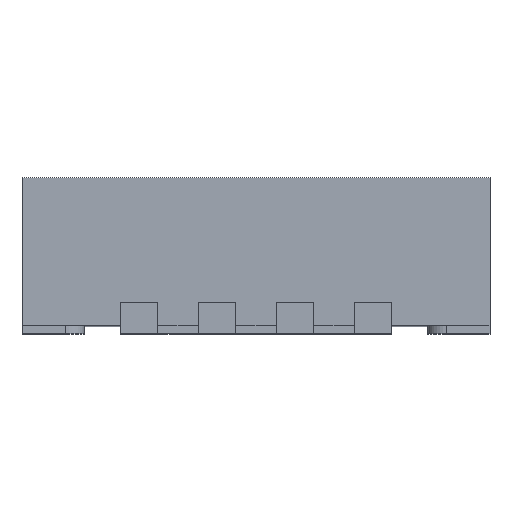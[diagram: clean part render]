
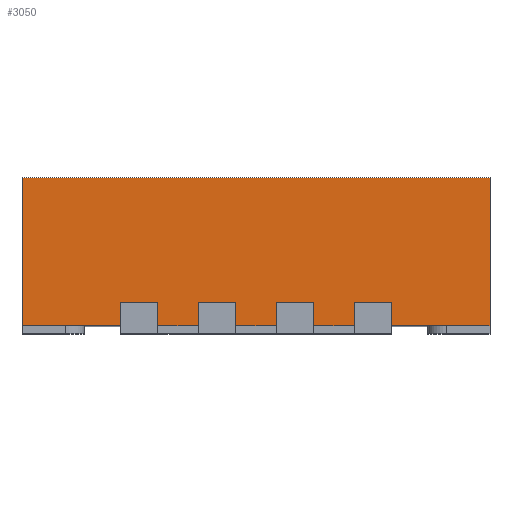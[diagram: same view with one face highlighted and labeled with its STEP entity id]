
A CAD part, top view. The second image highlights one B-rep face of the part: STEP entity #3050.
In plain terms, the highlighted planar face has unit normal (0, 0, 1).
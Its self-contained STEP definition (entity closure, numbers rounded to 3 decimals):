
#218=FACE_OUTER_BOUND('',#403,.T.);
#403=EDGE_LOOP('',(#2328,#2329,#2330,#2331,#2332,#2333,#2334,#2335,#2336,
#2337,#2338,#2339,#2340,#2341,#2342,#2343,#2344,#2345,#2346,#2347));
#633=LINE('',#4619,#997);
#661=LINE('',#4676,#1025);
#697=LINE('',#4762,#1061);
#700=LINE('',#4767,#1064);
#703=LINE('',#4772,#1067);
#706=LINE('',#4777,#1070);
#709=LINE('',#4781,#1073);
#716=LINE('',#4797,#1080);
#717=LINE('',#4799,#1081);
#718=LINE('',#4801,#1082);
#719=LINE('',#4802,#1083);
#720=LINE('',#4803,#1084);
#721=LINE('',#4805,#1085);
#722=LINE('',#4807,#1086);
#723=LINE('',#4808,#1087);
#724=LINE('',#4810,#1088);
#725=LINE('',#4812,#1089);
#726=LINE('',#4813,#1090);
#727=LINE('',#4815,#1091);
#728=LINE('',#4816,#1092);
#997=VECTOR('',#3739,1000.);
#1025=VECTOR('',#3769,1000.);
#1061=VECTOR('',#3829,1000.);
#1064=VECTOR('',#3832,1000.);
#1067=VECTOR('',#3835,1000.);
#1070=VECTOR('',#3838,1000.);
#1073=VECTOR('',#3841,1000.);
#1080=VECTOR('',#3852,1000.);
#1081=VECTOR('',#3853,1000.);
#1082=VECTOR('',#3854,1000.);
#1083=VECTOR('',#3855,1000.);
#1084=VECTOR('',#3856,1000.);
#1085=VECTOR('',#3857,1000.);
#1086=VECTOR('',#3858,1000.);
#1087=VECTOR('',#3859,1000.);
#1088=VECTOR('',#3860,1000.);
#1089=VECTOR('',#3861,1000.);
#1090=VECTOR('',#3862,1000.);
#1091=VECTOR('',#3863,1000.);
#1092=VECTOR('',#3864,1000.);
#1349=VERTEX_POINT('',#4616);
#1350=VERTEX_POINT('',#4618);
#1377=VERTEX_POINT('',#4673);
#1378=VERTEX_POINT('',#4675);
#1416=VERTEX_POINT('',#4761);
#1417=VERTEX_POINT('',#4764);
#1418=VERTEX_POINT('',#4766);
#1419=VERTEX_POINT('',#4769);
#1420=VERTEX_POINT('',#4771);
#1421=VERTEX_POINT('',#4774);
#1422=VERTEX_POINT('',#4776);
#1423=VERTEX_POINT('',#4779);
#1430=VERTEX_POINT('',#4796);
#1431=VERTEX_POINT('',#4798);
#1432=VERTEX_POINT('',#4800);
#1433=VERTEX_POINT('',#4804);
#1434=VERTEX_POINT('',#4806);
#1435=VERTEX_POINT('',#4809);
#1436=VERTEX_POINT('',#4811);
#1437=VERTEX_POINT('',#4814);
#1675=EDGE_CURVE('',#1350,#1349,#633,.T.);
#1703=EDGE_CURVE('',#1377,#1378,#661,.T.);
#1750=EDGE_CURVE('',#1416,#1378,#697,.T.);
#1753=EDGE_CURVE('',#1418,#1417,#700,.T.);
#1756=EDGE_CURVE('',#1420,#1419,#703,.T.);
#1759=EDGE_CURVE('',#1422,#1421,#706,.T.);
#1762=EDGE_CURVE('',#1349,#1423,#709,.T.);
#1770=EDGE_CURVE('',#1430,#1418,#716,.T.);
#1771=EDGE_CURVE('',#1431,#1417,#717,.T.);
#1772=EDGE_CURVE('',#1431,#1432,#718,.T.);
#1773=EDGE_CURVE('',#1432,#1416,#719,.T.);
#1774=EDGE_CURVE('',#1350,#1377,#720,.T.);
#1775=EDGE_CURVE('',#1433,#1423,#721,.T.);
#1776=EDGE_CURVE('',#1433,#1434,#722,.T.);
#1777=EDGE_CURVE('',#1434,#1422,#723,.T.);
#1778=EDGE_CURVE('',#1435,#1421,#724,.T.);
#1779=EDGE_CURVE('',#1435,#1436,#725,.T.);
#1780=EDGE_CURVE('',#1436,#1420,#726,.T.);
#1781=EDGE_CURVE('',#1437,#1419,#727,.T.);
#1782=EDGE_CURVE('',#1437,#1430,#728,.T.);
#2328=ORIENTED_EDGE('',*,*,#1770,.T.);
#2329=ORIENTED_EDGE('',*,*,#1753,.T.);
#2330=ORIENTED_EDGE('',*,*,#1771,.F.);
#2331=ORIENTED_EDGE('',*,*,#1772,.T.);
#2332=ORIENTED_EDGE('',*,*,#1773,.T.);
#2333=ORIENTED_EDGE('',*,*,#1750,.T.);
#2334=ORIENTED_EDGE('',*,*,#1703,.F.);
#2335=ORIENTED_EDGE('',*,*,#1774,.F.);
#2336=ORIENTED_EDGE('',*,*,#1675,.T.);
#2337=ORIENTED_EDGE('',*,*,#1762,.T.);
#2338=ORIENTED_EDGE('',*,*,#1775,.F.);
#2339=ORIENTED_EDGE('',*,*,#1776,.T.);
#2340=ORIENTED_EDGE('',*,*,#1777,.T.);
#2341=ORIENTED_EDGE('',*,*,#1759,.T.);
#2342=ORIENTED_EDGE('',*,*,#1778,.F.);
#2343=ORIENTED_EDGE('',*,*,#1779,.T.);
#2344=ORIENTED_EDGE('',*,*,#1780,.T.);
#2345=ORIENTED_EDGE('',*,*,#1756,.T.);
#2346=ORIENTED_EDGE('',*,*,#1781,.F.);
#2347=ORIENTED_EDGE('',*,*,#1782,.T.);
#2887=PLANE('',#3304);
#3050=ADVANCED_FACE('',(#218),#2887,.F.);
#3304=AXIS2_PLACEMENT_3D('',#4795,#3850,#3851);
#3739=DIRECTION('',(0.,-1.,0.));
#3769=DIRECTION('',(0.,-1.,0.));
#3829=DIRECTION('',(1.,0.,0.));
#3832=DIRECTION('',(1.,0.,0.));
#3835=DIRECTION('',(1.,0.,0.));
#3838=DIRECTION('',(1.,0.,0.));
#3841=DIRECTION('',(1.,0.,0.));
#3850=DIRECTION('center_axis',(0.,0.,-1.));
#3851=DIRECTION('ref_axis',(-1.,0.,0.));
#3852=DIRECTION('',(0.,-1.,0.));
#3853=DIRECTION('',(0.,-1.,0.));
#3854=DIRECTION('',(1.,0.,0.));
#3855=DIRECTION('',(0.,-1.,0.));
#3856=DIRECTION('',(1.,0.,0.));
#3857=DIRECTION('',(0.,-1.,0.));
#3858=DIRECTION('',(1.,0.,0.));
#3859=DIRECTION('',(0.,-1.,0.));
#3860=DIRECTION('',(0.,-1.,0.));
#3861=DIRECTION('',(1.,0.,0.));
#3862=DIRECTION('',(0.,-1.,0.));
#3863=DIRECTION('',(0.,-1.,0.));
#3864=DIRECTION('',(1.,0.,0.));
#4616=CARTESIAN_POINT('',(-1.5,0.05,1.5));
#4618=CARTESIAN_POINT('',(-1.5,1.,1.5));
#4619=CARTESIAN_POINT('',(-1.5,6.243,1.5));
#4673=CARTESIAN_POINT('',(1.5,1.,1.5));
#4675=CARTESIAN_POINT('',(1.5,0.05,1.5));
#4676=CARTESIAN_POINT('',(1.5,6.243,1.5));
#4761=CARTESIAN_POINT('',(0.87,0.05,1.5));
#4762=CARTESIAN_POINT('',(1.5,0.05,1.5));
#4764=CARTESIAN_POINT('',(0.63,0.05,1.5));
#4766=CARTESIAN_POINT('',(0.37,0.05,1.5));
#4767=CARTESIAN_POINT('',(1.5,0.05,1.5));
#4769=CARTESIAN_POINT('',(0.13,0.05,1.5));
#4771=CARTESIAN_POINT('',(-0.13,0.05,1.5));
#4772=CARTESIAN_POINT('',(1.5,0.05,1.5));
#4774=CARTESIAN_POINT('',(-0.37,0.05,1.5));
#4776=CARTESIAN_POINT('',(-0.63,0.05,1.5));
#4777=CARTESIAN_POINT('',(1.5,0.05,1.5));
#4779=CARTESIAN_POINT('',(-0.87,0.05,1.5));
#4781=CARTESIAN_POINT('',(1.5,0.05,1.5));
#4795=CARTESIAN_POINT('Origin',(1.5,6.243,1.5));
#4796=CARTESIAN_POINT('',(0.37,0.2,1.5));
#4797=CARTESIAN_POINT('',(0.37,0.2,1.5));
#4798=CARTESIAN_POINT('',(0.63,0.2,1.5));
#4799=CARTESIAN_POINT('',(0.63,0.2,1.5));
#4800=CARTESIAN_POINT('',(0.87,0.2,1.5));
#4801=CARTESIAN_POINT('',(0.87,0.2,1.5));
#4802=CARTESIAN_POINT('',(0.87,0.2,1.5));
#4803=CARTESIAN_POINT('',(1.5,1.,1.5));
#4804=CARTESIAN_POINT('',(-0.87,0.2,1.5));
#4805=CARTESIAN_POINT('',(-0.87,0.2,1.5));
#4806=CARTESIAN_POINT('',(-0.63,0.2,1.5));
#4807=CARTESIAN_POINT('',(-0.63,0.2,1.5));
#4808=CARTESIAN_POINT('',(-0.63,0.2,1.5));
#4809=CARTESIAN_POINT('',(-0.37,0.2,1.5));
#4810=CARTESIAN_POINT('',(-0.37,0.2,1.5));
#4811=CARTESIAN_POINT('',(-0.13,0.2,1.5));
#4812=CARTESIAN_POINT('',(-0.13,0.2,1.5));
#4813=CARTESIAN_POINT('',(-0.13,0.2,1.5));
#4814=CARTESIAN_POINT('',(0.13,0.2,1.5));
#4815=CARTESIAN_POINT('',(0.13,0.2,1.5));
#4816=CARTESIAN_POINT('',(0.37,0.2,1.5));
